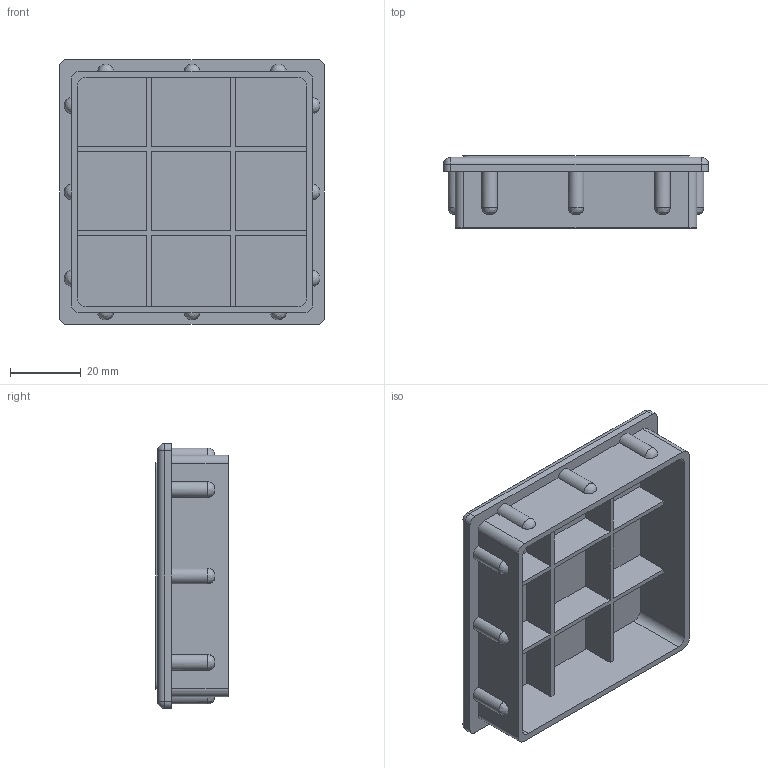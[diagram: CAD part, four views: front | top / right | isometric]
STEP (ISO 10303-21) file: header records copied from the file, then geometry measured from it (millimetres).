
FILE_DESCRIPTION(/* description */ (''),/* implementation_level */ '2;1');
FILE_NAME(/* name */ '\\NAS\db20\PR4-7575\DR_PR4-7575.stp',/* time_stamp */ '2019-05-30T11:00:51+09:00',/* author */ ('user'),/* organization */ (''),/* preprocessor_version */ 'ST-DEVELOPER v15.6',/* originating_system */ 'Autodesk Inventor 2015',/* authorisation */ '');
FILE_SCHEMA (('AUTOMOTIVE_DESIGN { 1 0 10303 214 3 1 1 }'));
Length unit declared in the file: millimetre
Products named in the file (1): DR_PR4-7575
Bounding box: 75 x 20.5 x 75 mm (x, y, z)
Volume: 20432.7 mm3; surface area: 29138.1 mm2
Topology: 1 solids, 1 shells, 108 faces, 360 edges, 244 vertices
Faces by surface type: plane 60, cylinder 32, bspline 12, sphere 4
Entity records: 4790 total; most frequent: CARTESIAN_POINT 1643, ORIENTED_EDGE 720, DIRECTION 570, EDGE_CURVE 360, LINE 272, VECTOR 272, VERTEX_POINT 244, AXIS2_PLACEMENT_3D 149
